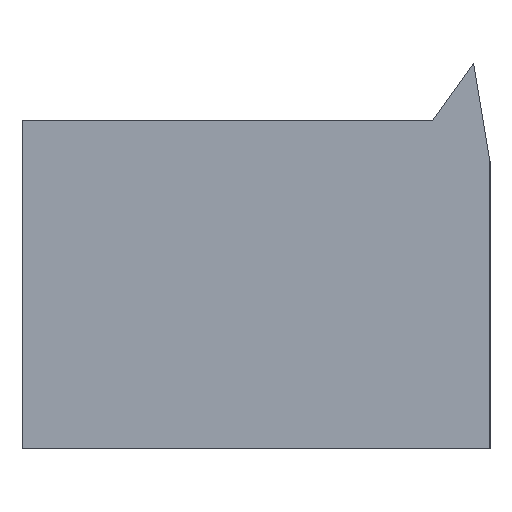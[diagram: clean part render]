
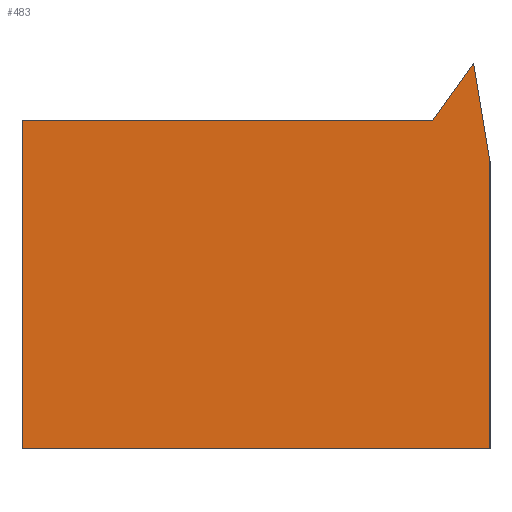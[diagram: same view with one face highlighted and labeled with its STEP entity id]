
A CAD part, left-side view. The second image highlights one B-rep face of the part: STEP entity #483.
In plain terms, the highlighted planar face has unit normal (-1, 0, 0).
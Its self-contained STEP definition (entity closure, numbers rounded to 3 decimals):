
#22 = VERTEX_POINT('',#23);
#23 = CARTESIAN_POINT('',(-27.,0.6,-160.));
#32 = PLANE('',#33);
#33 = AXIS2_PLACEMENT_3D('',#34,#35,#36);
#34 = CARTESIAN_POINT('',(-27.,0.6,-160.));
#35 = DIRECTION('',(0.,0.,1.));
#36 = DIRECTION('',(0.,1.,0.));
#44 = PLANE('',#45);
#45 = AXIS2_PLACEMENT_3D('',#46,#47,#48);
#46 = CARTESIAN_POINT('',(-27.,0.6,-153.));
#47 = DIRECTION('',(-0.,1.,0.));
#48 = DIRECTION('',(0.,0.,-1.));
#85 = VERTEX_POINT('',#86);
#86 = CARTESIAN_POINT('',(-27.,12.,-160.));
#100 = PLANE('',#101);
#101 = AXIS2_PLACEMENT_3D('',#102,#103,#104);
#102 = CARTESIAN_POINT('',(-27.,12.,-160.));
#103 = DIRECTION('',(0.,-1.,0.));
#104 = DIRECTION('',(0.,0.,1.));
#112 = EDGE_CURVE('',#22,#85,#113,.T.);
#113 = SURFACE_CURVE('',#114,(#118,#125),.PCURVE_S1.);
#114 = LINE('',#115,#116);
#115 = CARTESIAN_POINT('',(-27.,0.6,-160.));
#116 = VECTOR('',#117,1.);
#117 = DIRECTION('',(0.,1.,0.));
#118 = PCURVE('',#32,#119);
#119 = DEFINITIONAL_REPRESENTATION('',(#120),#124);
#120 = LINE('',#121,#122);
#121 = CARTESIAN_POINT('',(0.,0.));
#122 = VECTOR('',#123,1.);
#123 = DIRECTION('',(1.,0.));
#124 = ( GEOMETRIC_REPRESENTATION_CONTEXT(2) 
PARAMETRIC_REPRESENTATION_CONTEXT() REPRESENTATION_CONTEXT('2D SPACE',''
  ) );
#125 = PCURVE('',#126,#131);
#126 = PLANE('',#127);
#127 = AXIS2_PLACEMENT_3D('',#128,#129,#130);
#128 = CARTESIAN_POINT('',(-27.,6.08,-155.773));
#129 = DIRECTION('',(1.,0.,0.));
#130 = DIRECTION('',(-0.,0.,1.));
#131 = DEFINITIONAL_REPRESENTATION('',(#132),#136);
#132 = LINE('',#133,#134);
#133 = CARTESIAN_POINT('',(-4.227,5.48));
#134 = VECTOR('',#135,1.);
#135 = DIRECTION('',(0.,-1.));
#136 = ( GEOMETRIC_REPRESENTATION_CONTEXT(2) 
PARAMETRIC_REPRESENTATION_CONTEXT() REPRESENTATION_CONTEXT('2D SPACE',''
  ) );
#166 = VERTEX_POINT('',#167);
#167 = CARTESIAN_POINT('',(-27.,12.,-152.));
#181 = PLANE('',#182);
#182 = AXIS2_PLACEMENT_3D('',#183,#184,#185);
#183 = CARTESIAN_POINT('',(-27.,12.,-152.));
#184 = DIRECTION('',(0.,0.,-1.));
#185 = DIRECTION('',(0.,-1.,0.));
#193 = EDGE_CURVE('',#85,#166,#194,.T.);
#194 = SURFACE_CURVE('',#195,(#199,#206),.PCURVE_S1.);
#195 = LINE('',#196,#197);
#196 = CARTESIAN_POINT('',(-27.,12.,-160.));
#197 = VECTOR('',#198,1.);
#198 = DIRECTION('',(0.,0.,1.));
#199 = PCURVE('',#100,#200);
#200 = DEFINITIONAL_REPRESENTATION('',(#201),#205);
#201 = LINE('',#202,#203);
#202 = CARTESIAN_POINT('',(0.,0.));
#203 = VECTOR('',#204,1.);
#204 = DIRECTION('',(1.,0.));
#205 = ( GEOMETRIC_REPRESENTATION_CONTEXT(2) 
PARAMETRIC_REPRESENTATION_CONTEXT() REPRESENTATION_CONTEXT('2D SPACE',''
  ) );
#206 = PCURVE('',#126,#207);
#207 = DEFINITIONAL_REPRESENTATION('',(#208),#212);
#208 = LINE('',#209,#210);
#209 = CARTESIAN_POINT('',(-4.227,-5.92));
#210 = VECTOR('',#211,1.);
#211 = DIRECTION('',(1.,0.));
#212 = ( GEOMETRIC_REPRESENTATION_CONTEXT(2) 
PARAMETRIC_REPRESENTATION_CONTEXT() REPRESENTATION_CONTEXT('2D SPACE',''
  ) );
#242 = VERTEX_POINT('',#243);
#243 = CARTESIAN_POINT('',(-27.,2.,-152.));
#257 = PLANE('',#258);
#258 = AXIS2_PLACEMENT_3D('',#259,#260,#261);
#259 = CARTESIAN_POINT('',(-27.,2.,-152.));
#260 = DIRECTION('',(0.,-0.814,-0.581));
#261 = DIRECTION('',(0.,-0.581,0.814));
#269 = EDGE_CURVE('',#166,#242,#270,.T.);
#270 = SURFACE_CURVE('',#271,(#275,#282),.PCURVE_S1.);
#271 = LINE('',#272,#273);
#272 = CARTESIAN_POINT('',(-27.,12.,-152.));
#273 = VECTOR('',#274,1.);
#274 = DIRECTION('',(0.,-1.,0.));
#275 = PCURVE('',#181,#276);
#276 = DEFINITIONAL_REPRESENTATION('',(#277),#281);
#277 = LINE('',#278,#279);
#278 = CARTESIAN_POINT('',(0.,-0.));
#279 = VECTOR('',#280,1.);
#280 = DIRECTION('',(1.,0.));
#281 = ( GEOMETRIC_REPRESENTATION_CONTEXT(2) 
PARAMETRIC_REPRESENTATION_CONTEXT() REPRESENTATION_CONTEXT('2D SPACE',''
  ) );
#282 = PCURVE('',#126,#283);
#283 = DEFINITIONAL_REPRESENTATION('',(#284),#288);
#284 = LINE('',#285,#286);
#285 = CARTESIAN_POINT('',(3.773,-5.92));
#286 = VECTOR('',#287,1.);
#287 = DIRECTION('',(0.,1.));
#288 = ( GEOMETRIC_REPRESENTATION_CONTEXT(2) 
PARAMETRIC_REPRESENTATION_CONTEXT() REPRESENTATION_CONTEXT('2D SPACE',''
  ) );
#318 = VERTEX_POINT('',#319);
#319 = CARTESIAN_POINT('',(-27.,1.,-150.6));
#333 = PLANE('',#334);
#334 = AXIS2_PLACEMENT_3D('',#335,#336,#337);
#335 = CARTESIAN_POINT('',(-27.,1.,-150.6));
#336 = DIRECTION('',(0.,0.986,-0.164));
#337 = DIRECTION('',(0.,-0.164,-0.986));
#345 = EDGE_CURVE('',#242,#318,#346,.T.);
#346 = SURFACE_CURVE('',#347,(#351,#358),.PCURVE_S1.);
#347 = LINE('',#348,#349);
#348 = CARTESIAN_POINT('',(-27.,2.,-152.));
#349 = VECTOR('',#350,1.);
#350 = DIRECTION('',(0.,-0.581,0.814));
#351 = PCURVE('',#257,#352);
#352 = DEFINITIONAL_REPRESENTATION('',(#353),#357);
#353 = LINE('',#354,#355);
#354 = CARTESIAN_POINT('',(0.,0.));
#355 = VECTOR('',#356,1.);
#356 = DIRECTION('',(1.,0.));
#357 = ( GEOMETRIC_REPRESENTATION_CONTEXT(2) 
PARAMETRIC_REPRESENTATION_CONTEXT() REPRESENTATION_CONTEXT('2D SPACE',''
  ) );
#358 = PCURVE('',#126,#359);
#359 = DEFINITIONAL_REPRESENTATION('',(#360),#364);
#360 = LINE('',#361,#362);
#361 = CARTESIAN_POINT('',(3.773,4.08));
#362 = VECTOR('',#363,1.);
#363 = DIRECTION('',(0.814,0.581));
#364 = ( GEOMETRIC_REPRESENTATION_CONTEXT(2) 
PARAMETRIC_REPRESENTATION_CONTEXT() REPRESENTATION_CONTEXT('2D SPACE',''
  ) );
#394 = VERTEX_POINT('',#395);
#395 = CARTESIAN_POINT('',(-27.,0.6,-153.));
#416 = EDGE_CURVE('',#318,#394,#417,.T.);
#417 = SURFACE_CURVE('',#418,(#422,#429),.PCURVE_S1.);
#418 = LINE('',#419,#420);
#419 = CARTESIAN_POINT('',(-27.,1.,-150.6));
#420 = VECTOR('',#421,1.);
#421 = DIRECTION('',(0.,-0.164,-0.986));
#422 = PCURVE('',#333,#423);
#423 = DEFINITIONAL_REPRESENTATION('',(#424),#428);
#424 = LINE('',#425,#426);
#425 = CARTESIAN_POINT('',(0.,0.));
#426 = VECTOR('',#427,1.);
#427 = DIRECTION('',(1.,0.));
#428 = ( GEOMETRIC_REPRESENTATION_CONTEXT(2) 
PARAMETRIC_REPRESENTATION_CONTEXT() REPRESENTATION_CONTEXT('2D SPACE',''
  ) );
#429 = PCURVE('',#126,#430);
#430 = DEFINITIONAL_REPRESENTATION('',(#431),#435);
#431 = LINE('',#432,#433);
#432 = CARTESIAN_POINT('',(5.173,5.08));
#433 = VECTOR('',#434,1.);
#434 = DIRECTION('',(-0.986,0.164));
#435 = ( GEOMETRIC_REPRESENTATION_CONTEXT(2) 
PARAMETRIC_REPRESENTATION_CONTEXT() REPRESENTATION_CONTEXT('2D SPACE',''
  ) );
#463 = EDGE_CURVE('',#394,#22,#464,.T.);
#464 = SURFACE_CURVE('',#465,(#469,#476),.PCURVE_S1.);
#465 = LINE('',#466,#467);
#466 = CARTESIAN_POINT('',(-27.,0.6,-153.));
#467 = VECTOR('',#468,1.);
#468 = DIRECTION('',(0.,0.,-1.));
#469 = PCURVE('',#44,#470);
#470 = DEFINITIONAL_REPRESENTATION('',(#471),#475);
#471 = LINE('',#472,#473);
#472 = CARTESIAN_POINT('',(0.,0.));
#473 = VECTOR('',#474,1.);
#474 = DIRECTION('',(1.,0.));
#475 = ( GEOMETRIC_REPRESENTATION_CONTEXT(2) 
PARAMETRIC_REPRESENTATION_CONTEXT() REPRESENTATION_CONTEXT('2D SPACE',''
  ) );
#476 = PCURVE('',#126,#477);
#477 = DEFINITIONAL_REPRESENTATION('',(#478),#482);
#478 = LINE('',#479,#480);
#479 = CARTESIAN_POINT('',(2.773,5.48));
#480 = VECTOR('',#481,1.);
#481 = DIRECTION('',(-1.,0.));
#482 = ( GEOMETRIC_REPRESENTATION_CONTEXT(2) 
PARAMETRIC_REPRESENTATION_CONTEXT() REPRESENTATION_CONTEXT('2D SPACE',''
  ) );
#483 = ADVANCED_FACE('',(#484),#126,.F.);
#484 = FACE_BOUND('',#485,.F.);
#485 = EDGE_LOOP('',(#486,#487,#488,#489,#490,#491));
#486 = ORIENTED_EDGE('',*,*,#112,.T.);
#487 = ORIENTED_EDGE('',*,*,#193,.T.);
#488 = ORIENTED_EDGE('',*,*,#269,.T.);
#489 = ORIENTED_EDGE('',*,*,#345,.T.);
#490 = ORIENTED_EDGE('',*,*,#416,.T.);
#491 = ORIENTED_EDGE('',*,*,#463,.T.);
